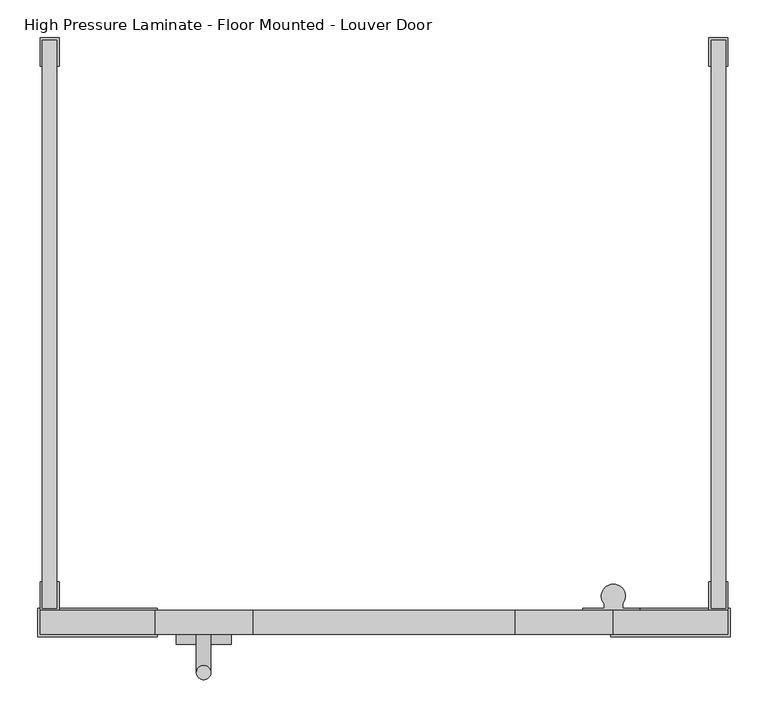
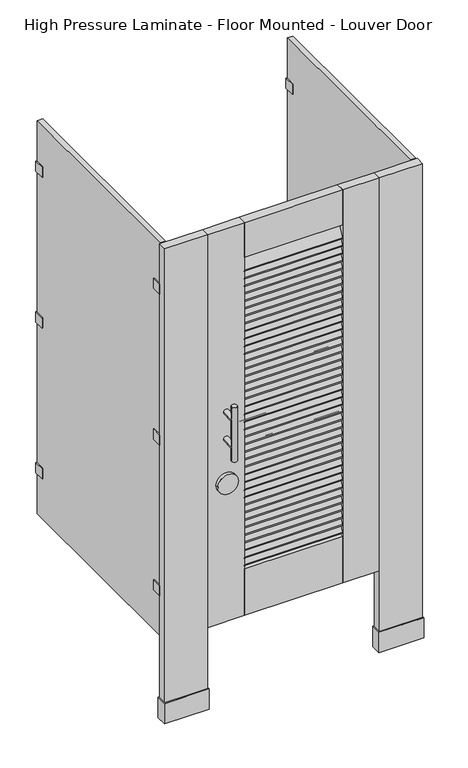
"""IFC4 building model written with IfcOpenShell, lengths in millimetres: proxy geometry, Toilet-Partition_Ironwood-Mfg_High-Pressure-Laminate : High Pressure Laminate - Floor Mounted - Louver Door."""

from ifc_helpers import new_model, si_unit, point, frame, frame_2d, origin, origin_with_axes, place, context, project, spatial, polyline, circle_curve, ellipse_curve, trimmed, segment, composite_curve, outline, extrude, source, transform, mapped, element, save
from ifc_brep_helpers import plane_surface, cylinder_surface, advanced_brep


def high_pressure_laminate_floor_mounted_louver_door_e92e4241(model_context):
    return source(origin(), model_context, "Body", "SolidModel", [
        extrude(outline(polyline([(701.675, -758.825), (701.675, -796.925), (542.925, -796.925), (542.925, -758.825), (701.675, -758.825)])), origin_with_axes(), (0.0, 0.0, 1.0), 76.2),
        extrude(outline(polyline([(698.5, -762.0), (698.5, -793.75), (546.1, -793.75), (546.1, -762.0), (698.5, -762.0)])), origin_with_axes(), (0.0, 0.0, 1.0), 1778.0),
        extrude(outline(polyline([(-219.075, -758.825), (-60.325, -758.825), (-60.325, -796.925), (-219.075, -796.925), (-219.075, -758.825)])), origin_with_axes(), (0.0, 0.0, 1.0), 76.2),
        extrude(outline(polyline([(-215.9, -762.0), (-63.5, -762.0), (-63.5, -793.75), (-215.9, -793.75), (-215.9, -762.0)])), origin_with_axes(), (0.0, 0.0, 1.0), 1778.0),
        extrude(outline(composite_curve([segment(polyline([(-764.1333548, 1605.1687721), (-783.2892514, 1565.8933636)]), True, "CONTINUOUS"), segment(trimmed(circle_curve(frame_2d((-787.5697581, 1567.9811062)), 4.7625), [point((-783.2892514, 1565.8933636))], [point((-791.8502647, 1570.0688488))], False, "CARTESIAN"), True, "CONTINUOUS"), segment(polyline([(-791.8502647, 1570.0688488), (-772.6943681, 1609.3442573)]), True, "CONTINUOUS"), segment(trimmed(circle_curve(frame_2d((-768.4138614, 1607.2565147)), 4.7625), [point((-772.6943681, 1609.3442573))], [point((-764.1333548, 1605.1687721))], False, "CARTESIAN"), True, "CONTINUOUS")], self_intersect=False)), frame((66.675, 0.0, 0.0), z_axis=(1.0, 0.0, 0.0), x_axis=(0.0, 1.0, 0.0)), (0.0, 0.0, 1.0), 349.25),
        extrude(outline(composite_curve([segment(polyline([(-764.1333548, 1576.8525178), (-783.2892514, 1537.5771093)]), True, "CONTINUOUS"), segment(trimmed(circle_curve(frame_2d((-787.5697581, 1539.6648519)), 4.7625), [point((-783.2892514, 1537.5771093))], [point((-791.8502647, 1541.7525944))], False, "CARTESIAN"), True, "CONTINUOUS"), segment(polyline([(-791.8502647, 1541.7525944), (-772.6943681, 1581.0280029)]), True, "CONTINUOUS"), segment(trimmed(circle_curve(frame_2d((-768.4138614, 1578.9402604)), 4.7625), [point((-772.6943681, 1581.0280029))], [point((-764.1333548, 1576.8525178))], False, "CARTESIAN"), True, "CONTINUOUS")], self_intersect=False)), frame((66.675, 0.0, 0.0), z_axis=(1.0, 0.0, 0.0), x_axis=(0.0, 1.0, 0.0)), (0.0, 0.0, 1.0), 349.25),
        extrude(outline(composite_curve([segment(polyline([(-764.1333548, 1548.5362634), (-783.2892514, 1509.2608549)]), True, "CONTINUOUS"), segment(trimmed(circle_curve(frame_2d((-787.5697581, 1511.3485975)), 4.7625), [point((-783.2892514, 1509.2608549))], [point((-791.8502647, 1513.4363401))], False, "CARTESIAN"), True, "CONTINUOUS"), segment(polyline([(-791.8502647, 1513.4363401), (-772.6943681, 1552.7117486)]), True, "CONTINUOUS"), segment(trimmed(circle_curve(frame_2d((-768.4138614, 1550.624006)), 4.7625), [point((-772.6943681, 1552.7117486))], [point((-764.1333548, 1548.5362634))], False, "CARTESIAN"), True, "CONTINUOUS")], self_intersect=False)), frame((66.675, 0.0, 0.0), z_axis=(1.0, 0.0, 0.0), x_axis=(0.0, 1.0, 0.0)), (0.0, 0.0, 1.0), 349.25),
        extrude(outline(composite_curve([segment(polyline([(-764.1333548, 1520.220009), (-783.2892514, 1480.9446005)]), True, "CONTINUOUS"), segment(trimmed(circle_curve(frame_2d((-787.5697581, 1483.0323431)), 4.7625), [point((-783.2892514, 1480.9446005))], [point((-791.8502647, 1485.1200857))], False, "CARTESIAN"), True, "CONTINUOUS"), segment(polyline([(-791.8502647, 1485.1200857), (-772.6943681, 1524.3954942)]), True, "CONTINUOUS"), segment(trimmed(circle_curve(frame_2d((-768.4138614, 1522.3077516)), 4.7625), [point((-772.6943681, 1524.3954942))], [point((-764.1333548, 1520.220009))], False, "CARTESIAN"), True, "CONTINUOUS")], self_intersect=False)), frame((66.675, 0.0, 0.0), z_axis=(1.0, 0.0, 0.0), x_axis=(0.0, 1.0, 0.0)), (0.0, 0.0, 1.0), 349.25),
        extrude(outline(composite_curve([segment(polyline([(-764.1333548, 1491.9037547), (-783.2892514, 1452.6283462)]), True, "CONTINUOUS"), segment(trimmed(circle_curve(frame_2d((-787.5697581, 1454.7160888)), 4.7625), [point((-783.2892514, 1452.6283462))], [point((-791.8502647, 1456.8038313))], False, "CARTESIAN"), True, "CONTINUOUS"), segment(polyline([(-791.8502647, 1456.8038313), (-772.6943681, 1496.0792398)]), True, "CONTINUOUS"), segment(trimmed(circle_curve(frame_2d((-768.4138614, 1493.9914973)), 4.7625), [point((-772.6943681, 1496.0792398))], [point((-764.1333548, 1491.9037547))], False, "CARTESIAN"), True, "CONTINUOUS")], self_intersect=False)), frame((66.675, 0.0, 0.0), z_axis=(1.0, 0.0, 0.0), x_axis=(0.0, 1.0, 0.0)), (0.0, 0.0, 1.0), 349.25),
        extrude(outline(composite_curve([segment(polyline([(-764.1333548, 1463.5875003), (-783.2892514, 1424.3120918)]), True, "CONTINUOUS"), segment(trimmed(circle_curve(frame_2d((-787.5697581, 1426.3998344)), 4.7625), [point((-783.2892514, 1424.3120918))], [point((-791.8502647, 1428.487577))], False, "CARTESIAN"), True, "CONTINUOUS"), segment(polyline([(-791.8502647, 1428.487577), (-772.6943681, 1467.7629855)]), True, "CONTINUOUS"), segment(trimmed(circle_curve(frame_2d((-768.4138614, 1465.6752429)), 4.7625), [point((-772.6943681, 1467.7629855))], [point((-764.1333548, 1463.5875003))], False, "CARTESIAN"), True, "CONTINUOUS")], self_intersect=False)), frame((66.675, 0.0, 0.0), z_axis=(1.0, 0.0, 0.0), x_axis=(0.0, 1.0, 0.0)), (0.0, 0.0, 1.0), 349.25),
        extrude(outline(composite_curve([segment(polyline([(-764.1333548, 1435.2712459), (-783.2892514, 1395.9958374)]), True, "CONTINUOUS"), segment(trimmed(circle_curve(frame_2d((-787.5697581, 1398.08358)), 4.7625), [point((-783.2892514, 1395.9958374))], [point((-791.8502647, 1400.1713226))], False, "CARTESIAN"), True, "CONTINUOUS"), segment(polyline([(-791.8502647, 1400.1713226), (-772.6943681, 1439.4467311)]), True, "CONTINUOUS"), segment(trimmed(circle_curve(frame_2d((-768.4138614, 1437.3589885)), 4.7625), [point((-772.6943681, 1439.4467311))], [point((-764.1333548, 1435.2712459))], False, "CARTESIAN"), True, "CONTINUOUS")], self_intersect=False)), frame((66.675, 0.0, 0.0), z_axis=(1.0, 0.0, 0.0), x_axis=(0.0, 1.0, 0.0)), (0.0, 0.0, 1.0), 349.25),
        extrude(outline(composite_curve([segment(polyline([(-764.1333548, 1406.9549916), (-783.2892514, 1367.6795831)]), True, "CONTINUOUS"), segment(trimmed(circle_curve(frame_2d((-787.5697581, 1369.7673257)), 4.7625), [point((-783.2892514, 1367.6795831))], [point((-791.8502647, 1371.8550682))], False, "CARTESIAN"), True, "CONTINUOUS"), segment(polyline([(-791.8502647, 1371.8550682), (-772.6943681, 1411.1304767)]), True, "CONTINUOUS"), segment(trimmed(circle_curve(frame_2d((-768.4138614, 1409.0427342)), 4.7625), [point((-772.6943681, 1411.1304767))], [point((-764.1333548, 1406.9549916))], False, "CARTESIAN"), True, "CONTINUOUS")], self_intersect=False)), frame((66.675, 0.0, 0.0), z_axis=(1.0, 0.0, 0.0), x_axis=(0.0, 1.0, 0.0)), (0.0, 0.0, 1.0), 349.25),
        extrude(outline(composite_curve([segment(polyline([(-764.1333548, 1378.6387372), (-783.2892514, 1339.3633287)]), True, "CONTINUOUS"), segment(trimmed(circle_curve(frame_2d((-787.5697581, 1341.4510713)), 4.7625), [point((-783.2892514, 1339.3633287))], [point((-791.8502647, 1343.5388139))], False, "CARTESIAN"), True, "CONTINUOUS"), segment(polyline([(-791.8502647, 1343.5388139), (-772.6943681, 1382.8142224)]), True, "CONTINUOUS"), segment(trimmed(circle_curve(frame_2d((-768.4138614, 1380.7264798)), 4.7625), [point((-772.6943681, 1382.8142224))], [point((-764.1333548, 1378.6387372))], False, "CARTESIAN"), True, "CONTINUOUS")], self_intersect=False)), frame((66.675, 0.0, 0.0), z_axis=(1.0, 0.0, 0.0), x_axis=(0.0, 1.0, 0.0)), (0.0, 0.0, 1.0), 349.25),
        extrude(outline(composite_curve([segment(polyline([(-764.1333548, 1350.3224828), (-783.2892514, 1311.0470743)]), True, "CONTINUOUS"), segment(trimmed(circle_curve(frame_2d((-787.5697581, 1313.1348169)), 4.7625), [point((-783.2892514, 1311.0470743))], [point((-791.8502647, 1315.2225595))], False, "CARTESIAN"), True, "CONTINUOUS"), segment(polyline([(-791.8502647, 1315.2225595), (-772.6943681, 1354.497968)]), True, "CONTINUOUS"), segment(trimmed(circle_curve(frame_2d((-768.4138614, 1352.4102254)), 4.7625), [point((-772.6943681, 1354.497968))], [point((-764.1333548, 1350.3224828))], False, "CARTESIAN"), True, "CONTINUOUS")], self_intersect=False)), frame((66.675, 0.0, 0.0), z_axis=(1.0, 0.0, 0.0), x_axis=(0.0, 1.0, 0.0)), (0.0, 0.0, 1.0), 349.25),
        extrude(outline(composite_curve([segment(polyline([(-764.1333548, 1322.0062285), (-783.2892514, 1282.73082)]), True, "CONTINUOUS"), segment(trimmed(circle_curve(frame_2d((-787.5697581, 1284.8185626)), 4.7625), [point((-783.2892514, 1282.73082))], [point((-791.8502647, 1286.9063052))], False, "CARTESIAN"), True, "CONTINUOUS"), segment(polyline([(-791.8502647, 1286.9063052), (-772.6943681, 1326.1817137)]), True, "CONTINUOUS"), segment(trimmed(circle_curve(frame_2d((-768.4138614, 1324.0939711)), 4.7625), [point((-772.6943681, 1326.1817137))], [point((-764.1333548, 1322.0062285))], False, "CARTESIAN"), True, "CONTINUOUS")], self_intersect=False)), frame((66.675, 0.0, 0.0), z_axis=(1.0, 0.0, 0.0), x_axis=(0.0, 1.0, 0.0)), (0.0, 0.0, 1.0), 349.25),
        extrude(outline(composite_curve([segment(polyline([(-764.1333548, 1293.6899741), (-783.2892514, 1254.4145656)]), True, "CONTINUOUS"), segment(trimmed(circle_curve(frame_2d((-787.5697581, 1256.5023082)), 4.7625), [point((-783.2892514, 1254.4145656))], [point((-791.8502647, 1258.5900508))], False, "CARTESIAN"), True, "CONTINUOUS"), segment(polyline([(-791.8502647, 1258.5900508), (-772.6943681, 1297.8654593)]), True, "CONTINUOUS"), segment(trimmed(circle_curve(frame_2d((-768.4138614, 1295.7777167)), 4.7625), [point((-772.6943681, 1297.8654593))], [point((-764.1333548, 1293.6899741))], False, "CARTESIAN"), True, "CONTINUOUS")], self_intersect=False)), frame((66.675, 0.0, 0.0), z_axis=(1.0, 0.0, 0.0), x_axis=(0.0, 1.0, 0.0)), (0.0, 0.0, 1.0), 349.25),
        extrude(outline(composite_curve([segment(polyline([(-764.1333548, 1265.3737197), (-783.2892514, 1226.0983112)]), True, "CONTINUOUS"), segment(trimmed(circle_curve(frame_2d((-787.5697581, 1228.1860538)), 4.7625), [point((-783.2892514, 1226.0983112))], [point((-791.8502647, 1230.2737964))], False, "CARTESIAN"), True, "CONTINUOUS"), segment(polyline([(-791.8502647, 1230.2737964), (-772.6943681, 1269.5492049)]), True, "CONTINUOUS"), segment(trimmed(circle_curve(frame_2d((-768.4138614, 1267.4614623)), 4.7625), [point((-772.6943681, 1269.5492049))], [point((-764.1333548, 1265.3737197))], False, "CARTESIAN"), True, "CONTINUOUS")], self_intersect=False)), frame((66.675, 0.0, 0.0), z_axis=(1.0, 0.0, 0.0), x_axis=(0.0, 1.0, 0.0)), (0.0, 0.0, 1.0), 349.25),
        extrude(outline(composite_curve([segment(polyline([(-764.1333548, 1237.0574654), (-783.2892514, 1197.7820569)]), True, "CONTINUOUS"), segment(trimmed(circle_curve(frame_2d((-787.5697581, 1199.8697995)), 4.7625), [point((-783.2892514, 1197.7820569))], [point((-791.8502647, 1201.9575421))], False, "CARTESIAN"), True, "CONTINUOUS"), segment(polyline([(-791.8502647, 1201.9575421), (-772.6943681, 1241.2329506)]), True, "CONTINUOUS"), segment(trimmed(circle_curve(frame_2d((-768.4138614, 1239.145208)), 4.7625), [point((-772.6943681, 1241.2329506))], [point((-764.1333548, 1237.0574654))], False, "CARTESIAN"), True, "CONTINUOUS")], self_intersect=False)), frame((66.675, 0.0, 0.0), z_axis=(1.0, 0.0, 0.0), x_axis=(0.0, 1.0, 0.0)), (0.0, 0.0, 1.0), 349.25),
        extrude(outline(composite_curve([segment(polyline([(-764.1333548, 1208.741211), (-783.2892514, 1169.4658025)]), True, "CONTINUOUS"), segment(trimmed(circle_curve(frame_2d((-787.5697581, 1171.5535451)), 4.7625), [point((-783.2892514, 1169.4658025))], [point((-791.8502647, 1173.6412877))], False, "CARTESIAN"), True, "CONTINUOUS"), segment(polyline([(-791.8502647, 1173.6412877), (-772.6943681, 1212.9166962)]), True, "CONTINUOUS"), segment(trimmed(circle_curve(frame_2d((-768.4138614, 1210.8289536)), 4.7625), [point((-772.6943681, 1212.9166962))], [point((-764.1333548, 1208.741211))], False, "CARTESIAN"), True, "CONTINUOUS")], self_intersect=False)), frame((66.675, 0.0, 0.0), z_axis=(1.0, 0.0, 0.0), x_axis=(0.0, 1.0, 0.0)), (0.0, 0.0, 1.0), 349.25),
        extrude(outline(composite_curve([segment(polyline([(-764.1333548, 1180.4249567), (-783.2892514, 1141.1495482)]), True, "CONTINUOUS"), segment(trimmed(circle_curve(frame_2d((-787.5697581, 1143.2372907)), 4.7625), [point((-783.2892514, 1141.1495482))], [point((-791.8502647, 1145.3250333))], False, "CARTESIAN"), True, "CONTINUOUS"), segment(polyline([(-791.8502647, 1145.3250333), (-772.6943681, 1184.6004418)]), True, "CONTINUOUS"), segment(trimmed(circle_curve(frame_2d((-768.4138614, 1182.5126992)), 4.7625), [point((-772.6943681, 1184.6004418))], [point((-764.1333548, 1180.4249567))], False, "CARTESIAN"), True, "CONTINUOUS")], self_intersect=False)), frame((66.675, 0.0, 0.0), z_axis=(1.0, 0.0, 0.0), x_axis=(0.0, 1.0, 0.0)), (0.0, 0.0, 1.0), 349.25),
        extrude(outline(composite_curve([segment(polyline([(-764.1333548, 1152.1087023), (-783.2892514, 1112.8332938)]), True, "CONTINUOUS"), segment(trimmed(circle_curve(frame_2d((-787.5697581, 1114.9210364)), 4.7625), [point((-783.2892514, 1112.8332938))], [point((-791.8502647, 1117.008779))], False, "CARTESIAN"), True, "CONTINUOUS"), segment(polyline([(-791.8502647, 1117.008779), (-772.6943681, 1156.2841875)]), True, "CONTINUOUS"), segment(trimmed(circle_curve(frame_2d((-768.4138614, 1154.1964449)), 4.7625), [point((-772.6943681, 1156.2841875))], [point((-764.1333548, 1152.1087023))], False, "CARTESIAN"), True, "CONTINUOUS")], self_intersect=False)), frame((66.675, 0.0, 0.0), z_axis=(1.0, 0.0, 0.0), x_axis=(0.0, 1.0, 0.0)), (0.0, 0.0, 1.0), 349.25),
        extrude(outline(composite_curve([segment(polyline([(-764.1333548, 1123.7924479), (-783.2892514, 1084.5170394)]), True, "CONTINUOUS"), segment(trimmed(circle_curve(frame_2d((-787.5697581, 1086.604782)), 4.7625), [point((-783.2892514, 1084.5170394))], [point((-791.8502647, 1088.6925246))], False, "CARTESIAN"), True, "CONTINUOUS"), segment(polyline([(-791.8502647, 1088.6925246), (-772.6943681, 1127.9679331)]), True, "CONTINUOUS"), segment(trimmed(circle_curve(frame_2d((-768.4138614, 1125.8801905)), 4.7625), [point((-772.6943681, 1127.9679331))], [point((-764.1333548, 1123.7924479))], False, "CARTESIAN"), True, "CONTINUOUS")], self_intersect=False)), frame((66.675, 0.0, 0.0), z_axis=(1.0, 0.0, 0.0), x_axis=(0.0, 1.0, 0.0)), (0.0, 0.0, 1.0), 349.25),
        extrude(outline(composite_curve([segment(polyline([(-764.1333548, 1095.4761936), (-783.2892514, 1056.2007851)]), True, "CONTINUOUS"), segment(trimmed(circle_curve(frame_2d((-787.5697581, 1058.2885276)), 4.7625), [point((-783.2892514, 1056.2007851))], [point((-791.8502647, 1060.3762702))], False, "CARTESIAN"), True, "CONTINUOUS"), segment(polyline([(-791.8502647, 1060.3762702), (-772.6943681, 1099.6516787)]), True, "CONTINUOUS"), segment(trimmed(circle_curve(frame_2d((-768.4138614, 1097.5639361)), 4.7625), [point((-772.6943681, 1099.6516787))], [point((-764.1333548, 1095.4761936))], False, "CARTESIAN"), True, "CONTINUOUS")], self_intersect=False)), frame((66.675, 0.0, 0.0), z_axis=(1.0, 0.0, 0.0), x_axis=(0.0, 1.0, 0.0)), (0.0, 0.0, 1.0), 349.25),
        extrude(outline(composite_curve([segment(polyline([(-764.1333548, 1067.1599392), (-783.2892514, 1027.8845307)]), True, "CONTINUOUS"), segment(trimmed(circle_curve(frame_2d((-787.5697581, 1029.9722733)), 4.7625), [point((-783.2892514, 1027.8845307))], [point((-791.8502647, 1032.0600159))], False, "CARTESIAN"), True, "CONTINUOUS"), segment(polyline([(-791.8502647, 1032.0600159), (-772.6943681, 1071.3354244)]), True, "CONTINUOUS"), segment(trimmed(circle_curve(frame_2d((-768.4138614, 1069.2476818)), 4.7625), [point((-772.6943681, 1071.3354244))], [point((-764.1333548, 1067.1599392))], False, "CARTESIAN"), True, "CONTINUOUS")], self_intersect=False)), frame((66.675, 0.0, 0.0), z_axis=(1.0, 0.0, 0.0), x_axis=(0.0, 1.0, 0.0)), (0.0, 0.0, 1.0), 349.25),
        extrude(outline(composite_curve([segment(polyline([(-764.1333548, 1038.8436848), (-783.2892514, 999.5682763)]), True, "CONTINUOUS"), segment(trimmed(circle_curve(frame_2d((-787.5697581, 1001.6560189)), 4.7625), [point((-783.2892514, 999.5682763))], [point((-791.8502647, 1003.7437615))], False, "CARTESIAN"), True, "CONTINUOUS"), segment(polyline([(-791.8502647, 1003.7437615), (-772.6943681, 1043.01917)]), True, "CONTINUOUS"), segment(trimmed(circle_curve(frame_2d((-768.4138614, 1040.9314274)), 4.7625), [point((-772.6943681, 1043.01917))], [point((-764.1333548, 1038.8436848))], False, "CARTESIAN"), True, "CONTINUOUS")], self_intersect=False)), frame((66.675, 0.0, 0.0), z_axis=(1.0, 0.0, 0.0), x_axis=(0.0, 1.0, 0.0)), (0.0, 0.0, 1.0), 349.25),
        extrude(outline(composite_curve([segment(polyline([(-764.1333548, 1010.5274305), (-783.2892514, 971.252022)]), True, "CONTINUOUS"), segment(trimmed(circle_curve(frame_2d((-787.5697581, 973.3397645)), 4.7625), [point((-783.2892514, 971.252022))], [point((-791.8502647, 975.4275071))], False, "CARTESIAN"), True, "CONTINUOUS"), segment(polyline([(-791.8502647, 975.4275071), (-772.6943681, 1014.7029156)]), True, "CONTINUOUS"), segment(trimmed(circle_curve(frame_2d((-768.4138614, 1012.615173)), 4.7625), [point((-772.6943681, 1014.7029156))], [point((-764.1333548, 1010.5274305))], False, "CARTESIAN"), True, "CONTINUOUS")], self_intersect=False)), frame((66.675, 0.0, 0.0), z_axis=(1.0, 0.0, 0.0), x_axis=(0.0, 1.0, 0.0)), (0.0, 0.0, 1.0), 349.25),
        extrude(outline(composite_curve([segment(polyline([(-764.1333548, 982.2111761), (-783.2892514, 942.9357676)]), True, "CONTINUOUS"), segment(trimmed(circle_curve(frame_2d((-787.5697581, 945.0235102)), 4.7625), [point((-783.2892514, 942.9357676))], [point((-791.8502647, 947.1112528))], False, "CARTESIAN"), True, "CONTINUOUS"), segment(polyline([(-791.8502647, 947.1112528), (-772.6943681, 986.3866613)]), True, "CONTINUOUS"), segment(trimmed(circle_curve(frame_2d((-768.4138614, 984.2989187)), 4.7625), [point((-772.6943681, 986.3866613))], [point((-764.1333548, 982.2111761))], False, "CARTESIAN"), True, "CONTINUOUS")], self_intersect=False)), frame((66.675, 0.0, 0.0), z_axis=(1.0, 0.0, 0.0), x_axis=(0.0, 1.0, 0.0)), (0.0, 0.0, 1.0), 349.25),
        extrude(outline(composite_curve([segment(polyline([(-764.1333548, 953.8949217), (-783.2892514, 914.6195132)]), True, "CONTINUOUS"), segment(trimmed(circle_curve(frame_2d((-787.5697581, 916.7072558)), 4.7625), [point((-783.2892514, 914.6195132))], [point((-791.8502647, 918.7949984))], False, "CARTESIAN"), True, "CONTINUOUS"), segment(polyline([(-791.8502647, 918.7949984), (-772.6943681, 958.0704069)]), True, "CONTINUOUS"), segment(trimmed(circle_curve(frame_2d((-768.4138614, 955.9826643)), 4.7625), [point((-772.6943681, 958.0704069))], [point((-764.1333548, 953.8949217))], False, "CARTESIAN"), True, "CONTINUOUS")], self_intersect=False)), frame((66.675, 0.0, 0.0), z_axis=(1.0, 0.0, 0.0), x_axis=(0.0, 1.0, 0.0)), (0.0, 0.0, 1.0), 349.25),
        extrude(outline(composite_curve([segment(polyline([(-764.1333548, 925.5786674), (-783.2892514, 886.3032589)]), True, "CONTINUOUS"), segment(trimmed(circle_curve(frame_2d((-787.5697581, 888.3910014)), 4.7625), [point((-783.2892514, 886.3032589))], [point((-791.8502647, 890.478744))], False, "CARTESIAN"), True, "CONTINUOUS"), segment(polyline([(-791.8502647, 890.478744), (-772.6943681, 929.7541525)]), True, "CONTINUOUS"), segment(trimmed(circle_curve(frame_2d((-768.4138614, 927.6664099)), 4.7625), [point((-772.6943681, 929.7541525))], [point((-764.1333548, 925.5786674))], False, "CARTESIAN"), True, "CONTINUOUS")], self_intersect=False)), frame((66.675, 0.0, 0.0), z_axis=(1.0, 0.0, 0.0), x_axis=(0.0, 1.0, 0.0)), (0.0, 0.0, 1.0), 349.25),
        extrude(outline(composite_curve([segment(polyline([(-764.1333548, 897.262413), (-783.2892514, 857.9870045)]), True, "CONTINUOUS"), segment(trimmed(circle_curve(frame_2d((-787.5697581, 860.0747471)), 4.7625), [point((-783.2892514, 857.9870045))], [point((-791.8502647, 862.1624897))], False, "CARTESIAN"), True, "CONTINUOUS"), segment(polyline([(-791.8502647, 862.1624897), (-772.6943681, 901.4378982)]), True, "CONTINUOUS"), segment(trimmed(circle_curve(frame_2d((-768.4138614, 899.3501556)), 4.7625), [point((-772.6943681, 901.4378982))], [point((-764.1333548, 897.262413))], False, "CARTESIAN"), True, "CONTINUOUS")], self_intersect=False)), frame((66.675, 0.0, 0.0), z_axis=(1.0, 0.0, 0.0), x_axis=(0.0, 1.0, 0.0)), (0.0, 0.0, 1.0), 349.25),
        extrude(outline(composite_curve([segment(polyline([(-764.1333548, 868.9461586), (-783.2892514, 829.6707501)]), True, "CONTINUOUS"), segment(trimmed(circle_curve(frame_2d((-787.5697581, 831.7584927)), 4.7625), [point((-783.2892514, 829.6707501))], [point((-791.8502647, 833.8462353))], False, "CARTESIAN"), True, "CONTINUOUS"), segment(polyline([(-791.8502647, 833.8462353), (-772.6943681, 873.1216438)]), True, "CONTINUOUS"), segment(trimmed(circle_curve(frame_2d((-768.4138614, 871.0339012)), 4.7625), [point((-772.6943681, 873.1216438))], [point((-764.1333548, 868.9461586))], False, "CARTESIAN"), True, "CONTINUOUS")], self_intersect=False)), frame((66.675, 0.0, 0.0), z_axis=(1.0, 0.0, 0.0), x_axis=(0.0, 1.0, 0.0)), (0.0, 0.0, 1.0), 349.25),
        extrude(outline(composite_curve([segment(polyline([(-764.1333548, 840.6299043), (-783.2892514, 801.3544958)]), True, "CONTINUOUS"), segment(trimmed(circle_curve(frame_2d((-787.5697581, 803.4422384)), 4.7625), [point((-783.2892514, 801.3544958))], [point((-791.8502647, 805.5299809))], False, "CARTESIAN"), True, "CONTINUOUS"), segment(polyline([(-791.8502647, 805.5299809), (-772.6943681, 844.8053894)]), True, "CONTINUOUS"), segment(trimmed(circle_curve(frame_2d((-768.4138614, 842.7176469)), 4.7625), [point((-772.6943681, 844.8053894))], [point((-764.1333548, 840.6299043))], False, "CARTESIAN"), True, "CONTINUOUS")], self_intersect=False)), frame((66.675, 0.0, 0.0), z_axis=(1.0, 0.0, 0.0), x_axis=(0.0, 1.0, 0.0)), (0.0, 0.0, 1.0), 349.25),
        extrude(outline(composite_curve([segment(polyline([(-764.1333548, 812.3136499), (-783.2892514, 773.0382414)]), True, "CONTINUOUS"), segment(trimmed(circle_curve(frame_2d((-787.5697581, 775.125984)), 4.7625), [point((-783.2892514, 773.0382414))], [point((-791.8502647, 777.2137266))], False, "CARTESIAN"), True, "CONTINUOUS"), segment(polyline([(-791.8502647, 777.2137266), (-772.6943681, 816.4891351)]), True, "CONTINUOUS"), segment(trimmed(circle_curve(frame_2d((-768.4138614, 814.4013925)), 4.7625), [point((-772.6943681, 816.4891351))], [point((-764.1333548, 812.3136499))], False, "CARTESIAN"), True, "CONTINUOUS")], self_intersect=False)), frame((66.675, 0.0, 0.0), z_axis=(1.0, 0.0, 0.0), x_axis=(0.0, 1.0, 0.0)), (0.0, 0.0, 1.0), 349.25),
        extrude(outline(composite_curve([segment(polyline([(-764.1333548, 783.9973955), (-783.2892514, 744.721987)]), True, "CONTINUOUS"), segment(trimmed(circle_curve(frame_2d((-787.5697581, 746.8097296)), 4.7625), [point((-783.2892514, 744.721987))], [point((-791.8502647, 748.8974722))], False, "CARTESIAN"), True, "CONTINUOUS"), segment(polyline([(-791.8502647, 748.8974722), (-772.6943681, 788.1728807)]), True, "CONTINUOUS"), segment(trimmed(circle_curve(frame_2d((-768.4138614, 786.0851381)), 4.7625), [point((-772.6943681, 788.1728807))], [point((-764.1333548, 783.9973955))], False, "CARTESIAN"), True, "CONTINUOUS")], self_intersect=False)), frame((66.675, 0.0, 0.0), z_axis=(1.0, 0.0, 0.0), x_axis=(0.0, 1.0, 0.0)), (0.0, 0.0, 1.0), 349.25),
        extrude(outline(composite_curve([segment(polyline([(-764.1333548, 755.6811412), (-783.2892514, 716.4057327)]), True, "CONTINUOUS"), segment(trimmed(circle_curve(frame_2d((-787.5697581, 718.4934753)), 4.7625), [point((-783.2892514, 716.4057327))], [point((-791.8502647, 720.5812178))], False, "CARTESIAN"), True, "CONTINUOUS"), segment(polyline([(-791.8502647, 720.5812178), (-772.6943681, 759.8566263)]), True, "CONTINUOUS"), segment(trimmed(circle_curve(frame_2d((-768.4138614, 757.7688838)), 4.7625), [point((-772.6943681, 759.8566263))], [point((-764.1333548, 755.6811412))], False, "CARTESIAN"), True, "CONTINUOUS")], self_intersect=False)), frame((66.675, 0.0, 0.0), z_axis=(1.0, 0.0, 0.0), x_axis=(0.0, 1.0, 0.0)), (0.0, 0.0, 1.0), 349.25),
        extrude(outline(composite_curve([segment(polyline([(-764.1333548, 727.3648868), (-783.2892514, 688.0894783)]), True, "CONTINUOUS"), segment(trimmed(circle_curve(frame_2d((-787.5697581, 690.1772209)), 4.7625), [point((-783.2892514, 688.0894783))], [point((-791.8502647, 692.2649635))], False, "CARTESIAN"), True, "CONTINUOUS"), segment(polyline([(-791.8502647, 692.2649635), (-772.6943681, 731.540372)]), True, "CONTINUOUS"), segment(trimmed(circle_curve(frame_2d((-768.4138614, 729.4526294)), 4.7625), [point((-772.6943681, 731.540372))], [point((-764.1333548, 727.3648868))], False, "CARTESIAN"), True, "CONTINUOUS")], self_intersect=False)), frame((66.675, 0.0, 0.0), z_axis=(1.0, 0.0, 0.0), x_axis=(0.0, 1.0, 0.0)), (0.0, 0.0, 1.0), 349.25),
        extrude(outline(composite_curve([segment(polyline([(-764.1333548, 699.0486324), (-783.2892514, 659.7732239)]), True, "CONTINUOUS"), segment(trimmed(circle_curve(frame_2d((-787.5697581, 661.8609665)), 4.7625), [point((-783.2892514, 659.7732239))], [point((-791.8502647, 663.9487091))], False, "CARTESIAN"), True, "CONTINUOUS"), segment(polyline([(-791.8502647, 663.9487091), (-772.6943681, 703.2241176)]), True, "CONTINUOUS"), segment(trimmed(circle_curve(frame_2d((-768.4138614, 701.136375)), 4.7625), [point((-772.6943681, 703.2241176))], [point((-764.1333548, 699.0486324))], False, "CARTESIAN"), True, "CONTINUOUS")], self_intersect=False)), frame((66.675, 0.0, 0.0), z_axis=(1.0, 0.0, 0.0), x_axis=(0.0, 1.0, 0.0)), (0.0, 0.0, 1.0), 349.25),
        extrude(outline(composite_curve([segment(polyline([(-764.1333548, 670.7323781), (-783.2892514, 631.4569696)]), True, "CONTINUOUS"), segment(trimmed(circle_curve(frame_2d((-787.5697581, 633.5447122)), 4.7625), [point((-783.2892514, 631.4569696))], [point((-791.8502647, 635.6324547))], False, "CARTESIAN"), True, "CONTINUOUS"), segment(polyline([(-791.8502647, 635.6324547), (-772.6943681, 674.9078632)]), True, "CONTINUOUS"), segment(trimmed(circle_curve(frame_2d((-768.4138614, 672.8201207)), 4.7625), [point((-772.6943681, 674.9078632))], [point((-764.1333548, 670.7323781))], False, "CARTESIAN"), True, "CONTINUOUS")], self_intersect=False)), frame((66.675, 0.0, 0.0), z_axis=(1.0, 0.0, 0.0), x_axis=(0.0, 1.0, 0.0)), (0.0, 0.0, 1.0), 349.25),
        extrude(outline(composite_curve([segment(polyline([(-764.1333548, 642.4161237), (-783.2892514, 603.1407152)]), True, "CONTINUOUS"), segment(trimmed(circle_curve(frame_2d((-787.5697581, 605.2284578)), 4.7625), [point((-783.2892514, 603.1407152))], [point((-791.8502647, 607.3162004))], False, "CARTESIAN"), True, "CONTINUOUS"), segment(polyline([(-791.8502647, 607.3162004), (-772.6943681, 646.5916089)]), True, "CONTINUOUS"), segment(trimmed(circle_curve(frame_2d((-768.4138614, 644.5038663)), 4.7625), [point((-772.6943681, 646.5916089))], [point((-764.1333548, 642.4161237))], False, "CARTESIAN"), True, "CONTINUOUS")], self_intersect=False)), frame((66.675, 0.0, 0.0), z_axis=(1.0, 0.0, 0.0), x_axis=(0.0, 1.0, 0.0)), (0.0, 0.0, 1.0), 349.25),
        extrude(outline(composite_curve([segment(polyline([(-764.1333548, 614.0998693), (-783.2892514, 574.8244608)]), True, "CONTINUOUS"), segment(trimmed(circle_curve(frame_2d((-787.5697581, 576.9122034)), 4.7625), [point((-783.2892514, 574.8244608))], [point((-791.8502647, 578.999946))], False, "CARTESIAN"), True, "CONTINUOUS"), segment(polyline([(-791.8502647, 578.999946), (-772.6943681, 618.2753545)]), True, "CONTINUOUS"), segment(trimmed(circle_curve(frame_2d((-768.4138614, 616.1876119)), 4.7625), [point((-772.6943681, 618.2753545))], [point((-764.1333548, 614.0998693))], False, "CARTESIAN"), True, "CONTINUOUS")], self_intersect=False)), frame((66.675, 0.0, 0.0), z_axis=(1.0, 0.0, 0.0), x_axis=(0.0, 1.0, 0.0)), (0.0, 0.0, 1.0), 349.25),
        extrude(outline(composite_curve([segment(polyline([(-764.1333548, 585.783615), (-783.2892514, 546.5082065)]), True, "CONTINUOUS"), segment(trimmed(circle_curve(frame_2d((-787.5697581, 548.5959491)), 4.7625), [point((-783.2892514, 546.5082065))], [point((-791.8502647, 550.6836917))], False, "CARTESIAN"), True, "CONTINUOUS"), segment(polyline([(-791.8502647, 550.6836917), (-772.6943681, 589.9591001)]), True, "CONTINUOUS"), segment(trimmed(circle_curve(frame_2d((-768.4138614, 587.8713576)), 4.7625), [point((-772.6943681, 589.9591001))], [point((-764.1333548, 585.783615))], False, "CARTESIAN"), True, "CONTINUOUS")], self_intersect=False)), frame((66.675, 0.0, 0.0), z_axis=(1.0, 0.0, 0.0), x_axis=(0.0, 1.0, 0.0)), (0.0, 0.0, 1.0), 349.25),
        extrude(outline(composite_curve([segment(polyline([(-764.1333548, 557.4673606), (-783.2892514, 518.1919521)]), True, "CONTINUOUS"), segment(trimmed(circle_curve(frame_2d((-787.5697581, 520.2796947)), 4.7625), [point((-783.2892514, 518.1919521))], [point((-791.8502647, 522.3674373))], False, "CARTESIAN"), True, "CONTINUOUS"), segment(polyline([(-791.8502647, 522.3674373), (-772.6943681, 561.6428458)]), True, "CONTINUOUS"), segment(trimmed(circle_curve(frame_2d((-768.4138614, 559.5551032)), 4.7625), [point((-772.6943681, 561.6428458))], [point((-764.1333548, 557.4673606))], False, "CARTESIAN"), True, "CONTINUOUS")], self_intersect=False)), frame((66.675, 0.0, 0.0), z_axis=(1.0, 0.0, 0.0), x_axis=(0.0, 1.0, 0.0)), (0.0, 0.0, 1.0), 349.25),
        extrude(outline(composite_curve([segment(polyline([(-764.1333548, 1633.4850265), (-783.2892514, 1594.209618)]), True, "CONTINUOUS"), segment(trimmed(circle_curve(frame_2d((-787.5697581, 1596.2973606)), 4.7625), [point((-783.2892514, 1594.209618))], [point((-791.8502647, 1598.3851032))], False, "CARTESIAN"), True, "CONTINUOUS"), segment(polyline([(-791.8502647, 1598.3851032), (-772.6943681, 1637.6605117)]), True, "CONTINUOUS"), segment(trimmed(circle_curve(frame_2d((-768.4138614, 1635.5727691)), 4.7625), [point((-772.6943681, 1637.6605117))], [point((-764.1333548, 1633.4850265))], False, "CARTESIAN"), True, "CONTINUOUS")], self_intersect=False)), frame((66.675, 0.0, 0.0), z_axis=(1.0, 0.0, 0.0), x_axis=(0.0, 1.0, 0.0)), (0.0, 0.0, 1.0), 349.25),
        extrude(outline(composite_curve([segment(polyline([(-764.1333548, 529.1511062), (-783.2892514, 489.8756977)]), True, "CONTINUOUS"), segment(trimmed(circle_curve(frame_2d((-787.5697581, 491.9634403)), 4.7625), [point((-783.2892514, 489.8756977))], [point((-791.8502647, 494.0511829))], False, "CARTESIAN"), True, "CONTINUOUS"), segment(polyline([(-791.8502647, 494.0511829), (-772.6943681, 533.3265914)]), True, "CONTINUOUS"), segment(trimmed(circle_curve(frame_2d((-768.4138614, 531.2388488)), 4.7625), [point((-772.6943681, 533.3265914))], [point((-764.1333548, 529.1511062))], False, "CARTESIAN"), True, "CONTINUOUS")], self_intersect=False)), frame((66.675, 0.0, 0.0), z_axis=(1.0, 0.0, 0.0), x_axis=(0.0, 1.0, 0.0)), (0.0, 0.0, 1.0), 349.25),
        extrude(outline(polyline([(66.675, -762.0), (66.675, -793.75), (-63.5, -793.75), (-63.5, -762.0), (66.675, -762.0)])), frame((0.0, 0.0, 304.8), z_axis=(0.0, 0.0, 1.0), x_axis=(1.0, 0.0, 0.0)), (0.0, 0.0, 1.0), 1473.2),
        extrude(outline(polyline([(415.925, -762.0), (546.1, -762.0), (546.1, -793.75), (415.925, -793.75), (415.925, -762.0)])), frame((0.0, 0.0, 304.8), z_axis=(0.0, 0.0, 1.0), x_axis=(1.0, 0.0, 0.0)), (0.0, 0.0, 1.0), 1473.2),
        extrude(outline(polyline([(415.925, -762.0), (415.925, -793.75), (66.675, -793.75), (66.675, -762.0), (415.925, -762.0)])), frame((0.0, 0.0, 1647.825), z_axis=(0.0, 0.0, 1.0), x_axis=(1.0, 0.0, 0.0)), (0.0, 0.0, 1.0), 130.175),
        extrude(outline(polyline([(415.925, -762.0), (415.925, -793.75), (66.675, -793.75), (66.675, -762.0), (415.925, -762.0)])), frame((0.0, 0.0, 304.8), z_axis=(0.0, 0.0, 1.0), x_axis=(1.0, 0.0, 0.0)), (0.0, 0.0, 1.0), 174.625),
        extrude(outline(composite_curve([segment(trimmed(circle_curve(frame_2d((827.0875, 1.5875)), 36.5125), [point((827.0875, -34.925))], [point((827.0875, 38.1))], False, "CARTESIAN"), True, "CONTINUOUS"), segment(trimmed(circle_curve(frame_2d((827.0875, 1.5875)), 36.5125), [point((827.0875, 38.1))], [point((827.0875, -34.925))], False, "CARTESIAN"), True, "CONTINUOUS")], self_intersect=False)), frame((0.0, -806.45, 0.0), z_axis=(0.0, 1.0, 0.0), x_axis=(0.0, 0.0, 1.0)), (0.0, 0.0, 1.0), 12.7),
        advanced_brep(
        [(-7.9375, -793.75, 1092.2), (11.1125, -793.75, 1092.2), (-7.9375, -793.75, 990.6), (11.1125, -793.75, 990.6), (11.1125, -844.55, 1092.2), (-7.9375, -844.55, 1092.2), (11.1125, -844.55, 990.6), (-7.9375, -844.55, 990.6), (-7.9375, -844.55, 1143.0), (11.1125, -844.55, 1143.0), (-7.9375, -844.55, 939.8), (11.1125, -844.55, 939.8)],
        [
            (0, 1, circle_curve(frame((1.5875, -793.75, 1092.2), z_axis=(0.0, 1.0, 0.0), x_axis=(1.0, 0.0, 0.0)), 9.525)),
            (1, 0, circle_curve(frame((1.5875, -793.75, 1092.2), z_axis=(0.0, 1.0, 0.0), x_axis=(1.0, 0.0, 0.0)), 9.525)),
            (2, 3, circle_curve(frame((1.5875, -793.75, 990.6), z_axis=(0.0, 1.0, 0.0), x_axis=(1.0, 0.0, 0.0)), 9.525)),
            (3, 2, circle_curve(frame((1.5875, -793.75, 990.6), z_axis=(0.0, 1.0, 0.0), x_axis=(1.0, 0.0, 0.0)), 9.525)),
            (1, 4),
            (4, 5, ellipse_curve(frame((1.5875, -844.55, 1092.2), z_axis=(0.0, 0.7071067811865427, 0.7071067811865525), x_axis=(0.0, -0.7071067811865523, 0.7071067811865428)), 13.4703842, 9.525)),
            (5, 0),
            (5, 4, ellipse_curve(frame((1.5875, -844.55, 1092.2), z_axis=(0.0, 0.7071067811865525, -0.7071067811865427), x_axis=(0.0, -0.7071067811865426, -0.7071067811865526)), 13.4703842, 9.525)),
            (3, 6),
            (6, 7, ellipse_curve(frame((1.5875, -844.55, 990.6), z_axis=(0.0, 0.7071067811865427, 0.7071067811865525), x_axis=(0.0, -0.7071067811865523, 0.7071067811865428)), 13.4703842, 9.525)),
            (7, 2),
            (7, 6, ellipse_curve(frame((1.5875, -844.55, 990.6), z_axis=(0.0, 0.7071067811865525, -0.7071067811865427), x_axis=(0.0, -0.7071067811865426, -0.7071067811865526)), 13.4703842, 9.525)),
            (8, 9, circle_curve(frame((1.5875, -844.55, 1143.0), z_axis=(0.0, 0.0, 1.0), x_axis=(1.0, 0.0, 0.0)), 9.525)),
            (9, 8, circle_curve(frame((1.5875, -844.55, 1143.0), z_axis=(0.0, 0.0, 1.0), x_axis=(1.0, 0.0, 0.0)), 9.525)),
            (10, 11, circle_curve(frame((1.5875, -844.55, 939.8), z_axis=(0.0, 0.0, -1.0), x_axis=(1.0, 0.0, 0.0)), 9.525)),
            (11, 10, circle_curve(frame((1.5875, -844.55, 939.8), z_axis=(0.0, 0.0, -1.0), x_axis=(1.0, 0.0, 0.0)), 9.525)),
            (8, 5),
            (5, 7),
            (7, 10),
            (11, 6),
            (6, 4),
            (4, 9),
        ],
        [
            plane_surface(frame((11.1125, -793.75, 1092.2), z_axis=(0.0, 1.0, 0.0), x_axis=(0.0, 0.0, -1.0))),
            cylinder_surface(frame((1.5875, -793.75, 1092.2), z_axis=(0.0, -1.0, 0.0), x_axis=(1.0, 0.0, 0.0)), 9.525),
            cylinder_surface(frame((1.5875, -793.75, 990.6), z_axis=(0.0, -1.0, 0.0), x_axis=(1.0, 0.0, 0.0)), 9.525),
            plane_surface(frame((11.1125, -844.55, 1143.0), z_axis=(0.0, 0.0, 1.0), x_axis=(0.0, 1.0, 0.0))),
            plane_surface(frame((11.1125, -844.55, 939.8), z_axis=(0.0, 0.0, -1.0), x_axis=(0.0, -1.0, 0.0))),
            cylinder_surface(frame((1.5875, -844.55, 939.8), z_axis=(0.0, 0.0, 1.0), x_axis=(1.0, 0.0, 0.0)), 9.525),
        ],
        [
            (0, [[1, 2]]),
            (0, [[3, 4]]),
            (1, [[-2, 5, 6, 7]]),
            (1, [[-1, -7, 8, -5]]),
            (2, [[-4, 9, 10, 11]]),
            (2, [[-3, -11, 12, -9]]),
            (3, [[13, 14]]),
            (4, [[15, 16]]),
            (5, [[-13, 17, 18, 19, -16, 20, 21, 22]]),
            (5, [[-14, -22, -8, -17]]),
            (5, [[-15, -19, -10, -20]]),
            (5, [[-18, -6, -21, -12]]),
        ],
    ),
        extrude(outline(composite_curve([segment(polyline([(581.3737081, -762.0), (505.1737081, -762.0), (505.1737081, -758.825), (533.7487081, -758.825), (533.7487081, -752.9581331)]), True, "CONTINUOUS"), segment(trimmed(circle_curve(frame_2d((546.1, -742.8902139)), 15.9347861), [point((533.7487081, -752.9581331))], [point((558.4512919, -752.9581331))], False, "CARTESIAN"), True, "CONTINUOUS"), segment(polyline([(558.4512919, -752.9581331), (558.4512919, -758.825), (581.3737081, -758.825), (581.3737081, -762.0)]), True, "CONTINUOUS")], self_intersect=False)), frame((0.0, 0.0, 1574.8), z_axis=(0.0, 0.0, 1.0), x_axis=(1.0, 0.0, 0.0)), (0.0, 0.0, 1.0), 63.5),
        extrude(outline(composite_curve([segment(polyline([(581.3737081, -762.0), (505.1737081, -762.0), (505.1737081, -758.825), (533.7487081, -758.825), (533.7487081, -752.9581331)]), True, "CONTINUOUS"), segment(trimmed(circle_curve(frame_2d((546.1, -742.8902139)), 15.9347861), [point((533.7487081, -752.9581331))], [point((558.4512919, -752.9581331))], False, "CARTESIAN"), True, "CONTINUOUS"), segment(polyline([(558.4512919, -752.9581331), (558.4512919, -758.825), (581.3737081, -758.825), (581.3737081, -762.0)]), True, "CONTINUOUS")], self_intersect=False)), frame((0.0, 0.0, 1009.6500001), z_axis=(0.0, 0.0, 1.0), x_axis=(1.0, 0.0, 0.0)), (0.0, 0.0, 1.0), 63.5),
        extrude(outline(composite_curve([segment(polyline([(581.3737081, -762.0), (505.1737081, -762.0), (505.1737081, -758.825), (533.7487081, -758.825), (533.7487081, -752.9581331)]), True, "CONTINUOUS"), segment(trimmed(circle_curve(frame_2d((546.1, -742.8902139)), 15.9347861), [point((533.7487081, -752.9581331))], [point((558.4512919, -752.9581331))], False, "CARTESIAN"), True, "CONTINUOUS"), segment(polyline([(558.4512919, -752.9581331), (558.4512919, -758.825), (581.3737081, -758.825), (581.3737081, -762.0)]), True, "CONTINUOUS")], self_intersect=False)), frame((0.0, 0.0, 444.5), z_axis=(0.0, 0.0, 1.0), x_axis=(1.0, 0.0, 0.0)), (0.0, 0.0, 1.0), 63.5),
        extrude(outline(polyline([(676.148, -723.9), (676.148, -758.825), (695.198, -758.825), (695.198, -723.9), (698.373, -723.9), (698.373, -762.0), (672.973, -762.0), (672.973, -723.9), (676.148, -723.9)])), frame((0.0, 0.0, 1587.8188137), z_axis=(0.0, 0.0, 1.0), x_axis=(1.0, 0.0, 0.0)), (0.0, 0.0, 1.0), 38.1),
        extrude(outline(polyline([(676.148, -38.1), (672.973, -38.1), (672.973, 0.0), (698.373, 0.0), (698.373, -38.1), (695.198, -38.1), (695.198, -3.175), (676.148, -3.175), (676.148, -38.1)])), frame((0.0, 0.0, 1587.8188137), z_axis=(0.0, 0.0, 1.0), x_axis=(1.0, 0.0, 0.0)), (0.0, 0.0, 1.0), 38.1),
        extrude(outline(polyline([(676.148, -723.9), (676.148, -758.825), (695.198, -758.825), (695.198, -723.9), (698.373, -723.9), (698.373, -762.0), (672.973, -762.0), (672.973, -723.9), (676.148, -723.9)])), frame((0.0, 0.0, 1022.35), z_axis=(0.0, 0.0, 1.0), x_axis=(1.0, 0.0, 0.0)), (0.0, 0.0, 1.0), 38.1),
        extrude(outline(polyline([(676.148, -38.1), (672.973, -38.1), (672.973, 0.0), (698.373, 0.0), (698.373, -38.1), (695.198, -38.1), (695.198, -3.175), (676.148, -3.175), (676.148, -38.1)])), frame((0.0, 0.0, 1022.35), z_axis=(0.0, 0.0, 1.0), x_axis=(1.0, 0.0, 0.0)), (0.0, 0.0, 1.0), 38.1),
        extrude(outline(polyline([(676.148, -723.9), (676.148, -758.825), (695.198, -758.825), (695.198, -723.9), (698.373, -723.9), (698.373, -762.0), (672.973, -762.0), (672.973, -723.9), (676.148, -723.9)])), frame((0.0, 0.0, 457.2), z_axis=(0.0, 0.0, 1.0), x_axis=(1.0, 0.0, 0.0)), (0.0, 0.0, 1.0), 38.1),
        extrude(outline(polyline([(676.148, -38.1), (672.973, -38.1), (672.973, 0.0), (698.373, 0.0), (698.373, -38.1), (695.198, -38.1), (695.198, -3.175), (676.148, -3.175), (676.148, -38.1)])), frame((0.0, 0.0, 457.2), z_axis=(0.0, 0.0, 1.0), x_axis=(1.0, 0.0, 0.0)), (0.0, 0.0, 1.0), 38.1),
        extrude(outline(polyline([(-212.598, -723.9), (-212.598, -758.825), (-193.548, -758.825), (-193.548, -723.9), (-190.373, -723.9), (-190.373, -762.0), (-215.773, -762.0), (-215.773, -723.9), (-212.598, -723.9)])), frame((0.0, 0.0, 1587.8188137), z_axis=(0.0, 0.0, 1.0), x_axis=(1.0, 0.0, 0.0)), (0.0, 0.0, 1.0), 38.1),
        extrude(outline(polyline([(-212.598, -38.1), (-215.773, -38.1), (-215.773, 0.0), (-190.373, 0.0), (-190.373, -38.1), (-193.548, -38.1), (-193.548, -3.175), (-212.598, -3.175), (-212.598, -38.1)])), frame((0.0, 0.0, 1587.8188137), z_axis=(0.0, 0.0, 1.0), x_axis=(1.0, 0.0, 0.0)), (0.0, 0.0, 1.0), 38.1),
        extrude(outline(polyline([(-212.598, -723.9), (-212.598, -758.825), (-193.548, -758.825), (-193.548, -723.9), (-190.373, -723.9), (-190.373, -762.0), (-215.773, -762.0), (-215.773, -723.9), (-212.598, -723.9)])), frame((0.0, 0.0, 1022.35), z_axis=(0.0, 0.0, 1.0), x_axis=(1.0, 0.0, 0.0)), (0.0, 0.0, 1.0), 38.1),
        extrude(outline(polyline([(-212.598, -38.1), (-215.773, -38.1), (-215.773, 0.0), (-190.373, 0.0), (-190.373, -38.1), (-193.548, -38.1), (-193.548, -3.175), (-212.598, -3.175), (-212.598, -38.1)])), frame((0.0, 0.0, 1022.35), z_axis=(0.0, 0.0, 1.0), x_axis=(1.0, 0.0, 0.0)), (0.0, 0.0, 1.0), 38.1),
        extrude(outline(polyline([(-212.598, -723.9), (-212.598, -758.825), (-193.548, -758.825), (-193.548, -723.9), (-190.373, -723.9), (-190.373, -762.0), (-215.773, -762.0), (-215.773, -723.9), (-212.598, -723.9)])), frame((0.0, 0.0, 457.2), z_axis=(0.0, 0.0, 1.0), x_axis=(1.0, 0.0, 0.0)), (0.0, 0.0, 1.0), 38.1),
        extrude(outline(polyline([(-212.598, -38.1), (-215.773, -38.1), (-215.773, 0.0), (-190.373, 0.0), (-190.373, -38.1), (-193.548, -38.1), (-193.548, -3.175), (-212.598, -3.175), (-212.598, -38.1)])), frame((0.0, 0.0, 457.2), z_axis=(0.0, 0.0, 1.0), x_axis=(1.0, 0.0, 0.0)), (0.0, 0.0, 1.0), 38.1),
        extrude(outline(polyline([(-193.548, -3.175), (-193.548, -758.825), (-212.598, -758.825), (-212.598, -3.175), (-193.548, -3.175)])), frame((0.0, 0.0, 304.8), z_axis=(0.0, 0.0, 1.0), x_axis=(1.0, 0.0, 0.0)), (0.0, 0.0, 1.0), 1473.2),
        extrude(outline(polyline([(695.198, -3.175), (695.198, -758.825), (676.148, -758.825), (676.148, -3.175), (695.198, -3.175)])), frame((0.0, 0.0, 304.8), z_axis=(0.0, 0.0, 1.0), x_axis=(1.0, 0.0, 0.0)), (0.0, 0.0, 1.0), 1473.2),
    ])


if __name__ == "__main__":
    model = new_model("IFC4")
    model_context = context("Model", 3, world=origin())
    ifc_project = project(units=[si_unit("LENGTHUNIT", "METRE", prefix="MILLI")], contexts=[model_context])
    site = spatial("IfcSite", under=ifc_project)
    building = spatial("IfcBuilding", under=site)
    placement = place(None, origin())
    high_pressure_laminate_floor_mounted_louver_door_shape = high_pressure_laminate_floor_mounted_louver_door_e92e4241(model_context)
    element("IfcBuildingElementProxy", 1, Name="Toilet-Partition_Ironwood-Mfg_High-Pressure-Laminate : High Pressure Laminate - Floor Mounted - Louver Door", ObjectType="Toilet-Partition_Ironwood-Mfg_High-Pressure-Laminate : High Pressure Laminate - Floor Mounted - Louver Door", at=placement, inside=building, context=model_context, shape_type="MappedRepresentation", body=[
        mapped(high_pressure_laminate_floor_mounted_louver_door_shape, transform((0.0, 0.0, 0.0), x_axis=(1.0, 0.0, 0.0), y_axis=(0.0, 1.0, 0.0), z_axis=(0.0, 0.0, 1.0))),
    ])
    save(model, "model.ifc")
